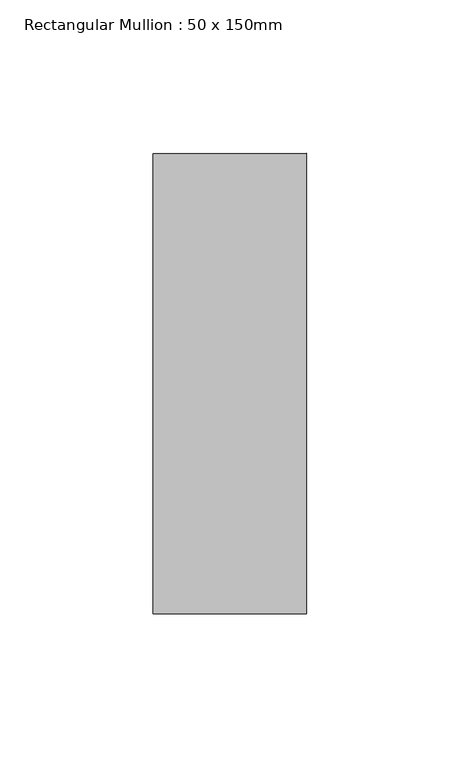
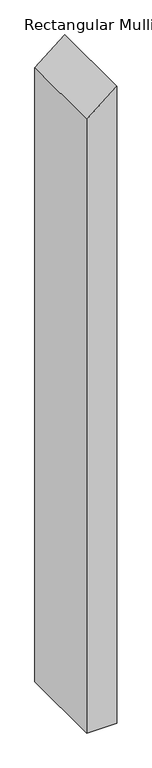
"""IFC4 building model written with IfcOpenShell, lengths in millimetres: member geometry, Rectangular Mullion : 50 x 150mm."""

from ifc_helpers import new_model, si_unit, frame, origin, place, context, project, spatial, polyline, outline, extrude, source, transform, mapped, element, save


def rectangular_mullion_50_x_150mm_5e882217(model_context):
    return source(origin(), model_context, "Body", "SweptSolid", [
        extrude(outline(polyline([(0.0, 0.0), (-40.4383755, -50.0), (-1124.8692306, -50.0), (-1124.8692306, 0.0), (0.0, 0.0)])), frame((0.0, -75.0, 0.0), z_axis=(0.0, 1.0, 0.0), x_axis=(0.0, 0.0, 1.0)), (0.0, 0.0, 1.0), 150.0),
    ])


if __name__ == "__main__":
    model = new_model("IFC4")
    model_context = context("Model", 3, world=origin())
    ifc_project = project(units=[si_unit("LENGTHUNIT", "METRE", prefix="MILLI")], contexts=[model_context])
    site = spatial("IfcSite", under=ifc_project)
    building = spatial("IfcBuilding", under=site)
    placement = place(None, origin())
    rectangular_mullion_50_x_150mm_shape = rectangular_mullion_50_x_150mm_5e882217(model_context)
    element("IfcMember", 1, ObjectType="Rectangular Mullion : 50 x 150mm", at=placement, inside=building, context=model_context, shape_type="MappedRepresentation", body=[
        mapped(rectangular_mullion_50_x_150mm_shape, transform((0.0, 0.0, 0.0), x_axis=(1.0, 0.0, 0.0), y_axis=(0.0, 1.0, 0.0), z_axis=(0.0, 0.0, 1.0))),
    ])
    save(model, "model.ifc")
